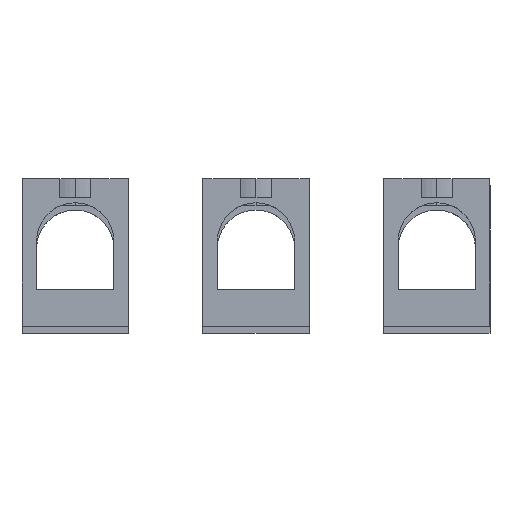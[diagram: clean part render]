
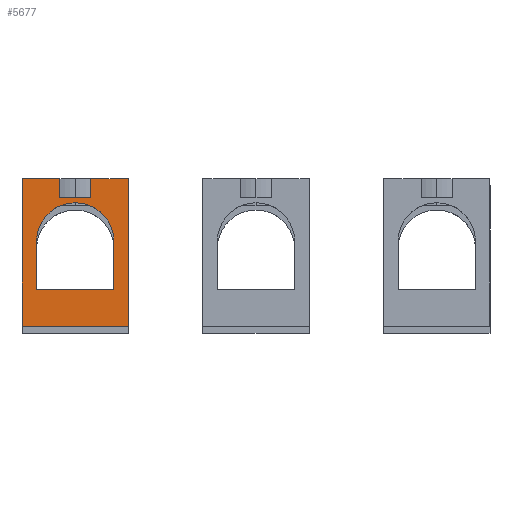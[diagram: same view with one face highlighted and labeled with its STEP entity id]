
A CAD part, front view. The second image highlights one B-rep face of the part: STEP entity #5677.
In plain terms, the highlighted planar face has unit normal (0, -1, 0).
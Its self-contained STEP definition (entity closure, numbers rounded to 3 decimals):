
#14 = DIRECTION ( 'NONE',  ( -1., 0., 0. ) ) ;
#23 = CARTESIAN_POINT ( 'NONE',  ( -34.186, -84.75, 49.5 ) ) ;
#79 = CARTESIAN_POINT ( 'NONE',  ( -26.34, -84.75, 23. ) ) ;
#268 = VECTOR ( 'NONE', #3335, 1000. ) ;
#347 = CARTESIAN_POINT ( 'NONE',  ( -45.34, -84.75, 40.5 ) ) ;
#367 = LINE ( 'NONE', #2551, #3179 ) ;
#440 = DIRECTION ( 'NONE',  ( 0., 0., 1. ) ) ;
#521 = AXIS2_PLACEMENT_3D ( 'NONE', #1215, #3958, #5294 ) ;
#593 = LINE ( 'NONE', #4602, #3111 ) ;
#637 = VECTOR ( 'NONE', #14, 1000. ) ;
#696 = DIRECTION ( 'NONE',  ( 0., -1., 0. ) ) ;
#1038 = LINE ( 'NONE', #1376, #2611 ) ;
#1041 = ORIENTED_EDGE ( 'NONE', *, *, #4679, .F. ) ;
#1042 = CARTESIAN_POINT ( 'NONE',  ( -29.34, -84.75, 30.5 ) ) ;
#1077 = EDGE_CURVE ( 'NONE', #3385, #4049, #5038, .T. ) ;
#1114 = EDGE_CURVE ( 'NONE', #1725, #4443, #2265, .T. ) ;
#1115 = DIRECTION ( 'NONE',  ( 1., 0., 0. ) ) ;
#1161 = LINE ( 'NONE', #2209, #5414 ) ;
#1203 = CARTESIAN_POINT ( 'NONE',  ( -48.34, -84.75, 22. ) ) ;
#1215 = CARTESIAN_POINT ( 'NONE',  ( -37.34, -84.75, 40.5 ) ) ;
#1277 = CARTESIAN_POINT ( 'NONE',  ( -29.34, -84.75, 30.5 ) ) ;
#1288 = LINE ( 'NONE', #3905, #4530 ) ;
#1318 = EDGE_CURVE ( 'NONE', #2504, #4994, #1997, .T. ) ;
#1331 = VERTEX_POINT ( 'NONE', #3676 ) ;
#1352 = VECTOR ( 'NONE', #4777, 1000. ) ;
#1376 = CARTESIAN_POINT ( 'NONE',  ( -26.34, -84.75, 53.5 ) ) ;
#1378 = ORIENTED_EDGE ( 'NONE', *, *, #4742, .T. ) ;
#1450 = VERTEX_POINT ( 'NONE', #79 ) ;
#1640 = CARTESIAN_POINT ( 'NONE',  ( -45.34, -84.75, 30.5 ) ) ;
#1675 = VERTEX_POINT ( 'NONE', #4794 ) ;
#1725 = VERTEX_POINT ( 'NONE', #4481 ) ;
#1915 = EDGE_CURVE ( 'NONE', #1450, #5375, #5698, .T. ) ;
#1940 = FACE_BOUND ( 'NONE', #4335, .T. ) ;
#1997 = LINE ( 'NONE', #23, #2799 ) ;
#2089 = ORIENTED_EDGE ( 'NONE', *, *, #1318, .T. ) ;
#2188 = EDGE_CURVE ( 'NONE', #1675, #2739, #5636, .T. ) ;
#2209 = CARTESIAN_POINT ( 'NONE',  ( -45.34, -84.75, 30.5 ) ) ;
#2265 = CIRCLE ( 'NONE', #521, 8. ) ;
#2307 = DIRECTION ( 'NONE',  ( 0., 0., -1. ) ) ;
#2314 = CARTESIAN_POINT ( 'NONE',  ( -40.494, -84.75, 53.5 ) ) ;
#2356 = ORIENTED_EDGE ( 'NONE', *, *, #1077, .T. ) ;
#2454 = DIRECTION ( 'NONE',  ( 0., 0., 1. ) ) ;
#2502 = EDGE_CURVE ( 'NONE', #4443, #1331, #3612, .T. ) ;
#2504 = VERTEX_POINT ( 'NONE', #4866 ) ;
#2528 = FACE_OUTER_BOUND ( 'NONE', #3885, .T. ) ;
#2531 = DIRECTION ( 'NONE',  ( 0., 0., 1. ) ) ;
#2548 = DIRECTION ( 'NONE',  ( 0., 0., -1. ) ) ;
#2551 = CARTESIAN_POINT ( 'NONE',  ( -34.186, -84.75, 49.5 ) ) ;
#2611 = VECTOR ( 'NONE', #440, 1000. ) ;
#2619 = EDGE_CURVE ( 'NONE', #1331, #3822, #1161, .T. ) ;
#2685 = DIRECTION ( 'NONE',  ( 1., 0., 0. ) ) ;
#2739 = VERTEX_POINT ( 'NONE', #3142 ) ;
#2799 = VECTOR ( 'NONE', #3257, 1000. ) ;
#2957 = VECTOR ( 'NONE', #3000, 1000. ) ;
#3000 = DIRECTION ( 'NONE',  ( -1., 0., 0. ) ) ;
#3111 = VECTOR ( 'NONE', #2307, 1000. ) ;
#3114 = ORIENTED_EDGE ( 'NONE', *, *, #2619, .F. ) ;
#3142 = CARTESIAN_POINT ( 'NONE',  ( -34.186, -84.75, 53.5 ) ) ;
#3179 = VECTOR ( 'NONE', #2531, 1000. ) ;
#3257 = DIRECTION ( 'NONE',  ( -1., 0., 0. ) ) ;
#3327 = EDGE_CURVE ( 'NONE', #1450, #1675, #1038, .T. ) ;
#3335 = DIRECTION ( 'NONE',  ( 0., 0., 1. ) ) ;
#3385 = VERTEX_POINT ( 'NONE', #2314 ) ;
#3475 = PLANE ( 'NONE',  #5944 ) ;
#3503 = ORIENTED_EDGE ( 'NONE', *, *, #1114, .F. ) ;
#3606 = ORIENTED_EDGE ( 'NONE', *, *, #1915, .F. ) ;
#3612 = LINE ( 'NONE', #1640, #5846 ) ;
#3676 = CARTESIAN_POINT ( 'NONE',  ( -45.34, -84.75, 30.5 ) ) ;
#3679 = CARTESIAN_POINT ( 'NONE',  ( -48.34, -84.75, 23. ) ) ;
#3822 = VERTEX_POINT ( 'NONE', #1277 ) ;
#3827 = CARTESIAN_POINT ( 'NONE',  ( -48.34, -84.75, 53.5 ) ) ;
#3833 = ORIENTED_EDGE ( 'NONE', *, *, #2502, .F. ) ;
#3885 = EDGE_LOOP ( 'NONE', ( #3606, #4419, #4928, #4980, #2089, #1378, #2356, #4561 ) ) ;
#3905 = CARTESIAN_POINT ( 'NONE',  ( -40.494, -84.75, 49.5 ) ) ;
#3958 = DIRECTION ( 'NONE',  ( 0., -1., 0. ) ) ;
#3996 = CARTESIAN_POINT ( 'NONE',  ( -40.494, -84.75, 49.5 ) ) ;
#4049 = VERTEX_POINT ( 'NONE', #5092 ) ;
#4268 = CARTESIAN_POINT ( 'NONE',  ( -48.34, -84.75, 53.5 ) ) ;
#4335 = EDGE_LOOP ( 'NONE', ( #3833, #3503, #1041, #3114 ) ) ;
#4419 = ORIENTED_EDGE ( 'NONE', *, *, #3327, .T. ) ;
#4443 = VERTEX_POINT ( 'NONE', #347 ) ;
#4481 = CARTESIAN_POINT ( 'NONE',  ( -29.34, -84.75, 40.5 ) ) ;
#4530 = VECTOR ( 'NONE', #2454, 1000. ) ;
#4561 = ORIENTED_EDGE ( 'NONE', *, *, #5346, .T. ) ;
#4602 = CARTESIAN_POINT ( 'NONE',  ( -48.34, -84.75, 53.5 ) ) ;
#4679 = EDGE_CURVE ( 'NONE', #3822, #1725, #4822, .T. ) ;
#4742 = EDGE_CURVE ( 'NONE', #4994, #3385, #1288, .T. ) ;
#4777 = DIRECTION ( 'NONE',  ( -1., 0., 0. ) ) ;
#4794 = CARTESIAN_POINT ( 'NONE',  ( -26.34, -84.75, 53.5 ) ) ;
#4822 = LINE ( 'NONE', #1042, #268 ) ;
#4866 = CARTESIAN_POINT ( 'NONE',  ( -34.186, -84.75, 49.5 ) ) ;
#4928 = ORIENTED_EDGE ( 'NONE', *, *, #2188, .T. ) ;
#4980 = ORIENTED_EDGE ( 'NONE', *, *, #5608, .F. ) ;
#4994 = VERTEX_POINT ( 'NONE', #3996 ) ;
#5038 = LINE ( 'NONE', #3827, #1352 ) ;
#5092 = CARTESIAN_POINT ( 'NONE',  ( -48.34, -84.75, 53.5 ) ) ;
#5294 = DIRECTION ( 'NONE',  ( -1., 0., 0. ) ) ;
#5346 = EDGE_CURVE ( 'NONE', #4049, #5375, #593, .T. ) ;
#5375 = VERTEX_POINT ( 'NONE', #3679 ) ;
#5414 = VECTOR ( 'NONE', #2685, 1000. ) ;
#5537 = CARTESIAN_POINT ( 'NONE',  ( -48.34, -84.75, 23. ) ) ;
#5608 = EDGE_CURVE ( 'NONE', #2504, #2739, #367, .T. ) ;
#5636 = LINE ( 'NONE', #4268, #2957 ) ;
#5677 = ADVANCED_FACE ( 'NONE', ( #1940, #2528 ), #3475, .T. ) ;
#5698 = LINE ( 'NONE', #5537, #637 ) ;
#5846 = VECTOR ( 'NONE', #2548, 1000. ) ;
#5944 = AXIS2_PLACEMENT_3D ( 'NONE', #1203, #696, #1115 ) ;
